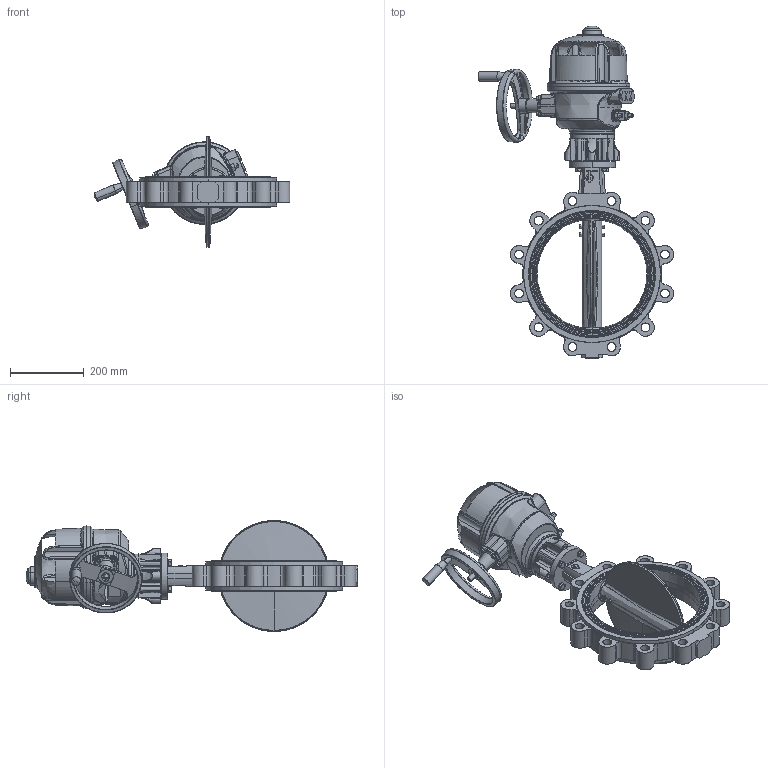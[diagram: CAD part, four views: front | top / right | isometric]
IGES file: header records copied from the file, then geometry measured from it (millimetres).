
Start section: SolidWorks IGES file using analytic representation for surfaces
Global section: file name: H:\BE FABRICATION\BE SERIE\VP\VP SERIE\F072 VPG\plan 3D\VPG-BX4\LUG\DN300\VPG464X-BX4XX0300.igs; native system: SolidWorks 2020; preprocessor: SolidWorks 2020; author: k.gigout; date: 220920.132608; units: millimetre
Bounding box: 531.19 x 901.5 x 301.51 mm (x, y, z)
Surface area: 1019814 mm2 (no closed solid volume)
Topology: 0 solids, 0 shells, 1043 faces, 22595 edges, 22618 vertices
Faces by surface type: bspline 660, revolution 383
